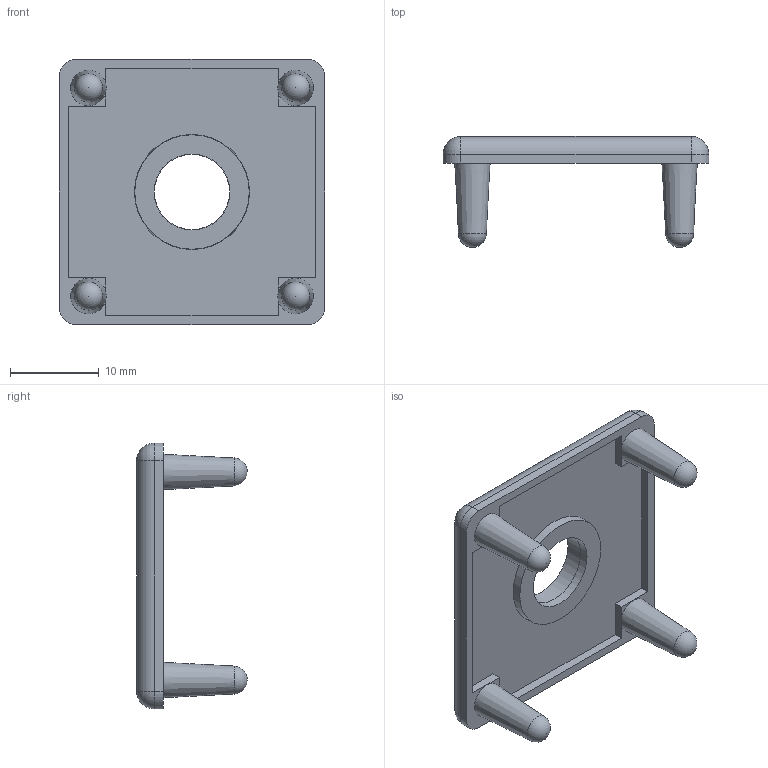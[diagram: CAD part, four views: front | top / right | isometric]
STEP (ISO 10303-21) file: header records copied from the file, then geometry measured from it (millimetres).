
FILE_DESCRIPTION(/* description */ ('STEP AP214'),/* implementation_level */ '2;1');
FILE_NAME(/* name */ '091359S02(high)',/* time_stamp */ '2025-04-03T15:05:09+02:00',/* author */ ('License CC BY-ND 4.0'),/* organization */ ('CADENAS'),/* preprocessor_version */ 'ST-DEVELOPER v19.3',/* originating_system */ 'PARTsolutions',/* authorisation */ ' ');
FILE_SCHEMA (('AUTOMOTIVE_DESIGN {1 0 10303 214 3 1 1}'));
Length unit declared in the file: millimetre
Products named in the file (1): 091359S02(high)
Bounding box: 30 x 12.5 x 30 mm (x, y, z)
Volume: 2196.8 mm3; surface area: 2528.3 mm2
Topology: 1 solids, 1 shells, 47 faces, 123 edges, 72 vertices
Faces by surface type: plane 24, cylinder 9, sphere 8, cone 6
Full cylindrical faces by diameter (mm): 8.5 x1
Entity records: 1270 total; most frequent: DIRECTION 226, CARTESIAN_POINT 206, ORIENTED_EDGE 194, EDGE_CURVE 97, AXIS2_PLACEMENT_3D 81, LINE 64, VECTOR 64, VERTEX_POINT 61
